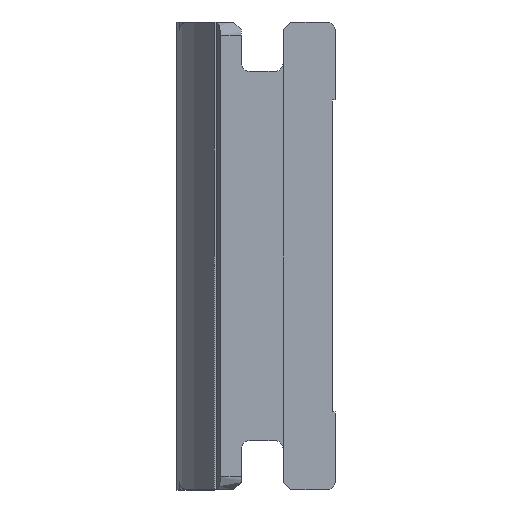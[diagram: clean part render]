
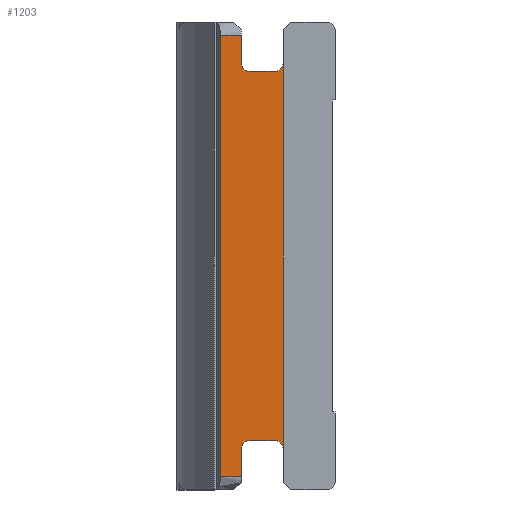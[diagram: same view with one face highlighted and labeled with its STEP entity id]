
A CAD part, left-side view. The second image highlights one B-rep face of the part: STEP entity #1203.
In plain terms, the highlighted planar face has unit normal (-1, 0, 0).
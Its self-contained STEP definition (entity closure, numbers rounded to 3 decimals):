
#17 = CARTESIAN_POINT ( 'NONE',  ( 10., 4.3, 8.5 ) ) ;
#33 = CARTESIAN_POINT ( 'NONE',  ( 10., 3.5, 8.7 ) ) ;
#43 = LINE ( 'NONE', #1056, #335 ) ;
#58 = ORIENTED_EDGE ( 'NONE', *, *, #443, .F. ) ;
#85 = DIRECTION ( 'NONE',  ( -1., 0., 0. ) ) ;
#97 = ORIENTED_EDGE ( 'NONE', *, *, #1587, .F. ) ;
#102 = LINE ( 'NONE', #1239, #485 ) ;
#115 = EDGE_CURVE ( 'NONE', #1319, #1458, #102, .T. ) ;
#140 = DIRECTION ( 'NONE',  ( 0., 1., 0. ) ) ;
#151 = LINE ( 'NONE', #33, #416 ) ;
#154 = CARTESIAN_POINT ( 'NONE',  ( 10., 1.9, 8.5 ) ) ;
#174 = AXIS2_PLACEMENT_3D ( 'NONE', #232, #85, #1057 ) ;
#205 = PLANE ( 'NONE',  #1856 ) ;
#206 = VECTOR ( 'NONE', #731, 1000. ) ;
#232 = CARTESIAN_POINT ( 'NONE',  ( 10., 2.2, -7.4 ) ) ;
#238 = LINE ( 'NONE', #812, #1126 ) ;
#262 = AXIS2_PLACEMENT_3D ( 'NONE', #1195, #1625, #338 ) ;
#266 = CARTESIAN_POINT ( 'NONE',  ( 10., 3.5, -7.4 ) ) ;
#311 = CARTESIAN_POINT ( 'NONE',  ( 10., 1.9, -7.4 ) ) ;
#335 = VECTOR ( 'NONE', #1186, 1000. ) ;
#338 = DIRECTION ( 'NONE',  ( 0., 0., -1. ) ) ;
#352 = ORIENTED_EDGE ( 'NONE', *, *, #883, .F. ) ;
#371 = VERTEX_POINT ( 'NONE', #311 ) ;
#390 = VERTEX_POINT ( 'NONE', #610 ) ;
#396 = EDGE_CURVE ( 'NONE', #390, #1568, #151, .T. ) ;
#409 = CARTESIAN_POINT ( 'NONE',  ( 10., 2.2, -7.1 ) ) ;
#416 = VECTOR ( 'NONE', #1177, 1000. ) ;
#443 = EDGE_CURVE ( 'NONE', #1407, #982, #1437, .T. ) ;
#485 = VECTOR ( 'NONE', #1367, 1000. ) ;
#498 = DIRECTION ( 'NONE',  ( 1., 0., 0. ) ) ;
#556 = CARTESIAN_POINT ( 'NONE',  ( 10., 3.2, -7.1 ) ) ;
#571 = CARTESIAN_POINT ( 'NONE',  ( 10., 1.9, -8.5 ) ) ;
#576 = CARTESIAN_POINT ( 'NONE',  ( 10., 3.5, -8.7 ) ) ;
#610 = CARTESIAN_POINT ( 'NONE',  ( 10., 3.5, 8.5 ) ) ;
#616 = CARTESIAN_POINT ( 'NONE',  ( 10., 3.2, 7.1 ) ) ;
#619 = CARTESIAN_POINT ( 'NONE',  ( 10., 3.2, -7.1 ) ) ;
#639 = ORIENTED_EDGE ( 'NONE', *, *, #1701, .F. ) ;
#651 = VECTOR ( 'NONE', #1717, 1000. ) ;
#652 = CIRCLE ( 'NONE', #262, 0.3 ) ;
#654 = AXIS2_PLACEMENT_3D ( 'NONE', #877, #739, #1308 ) ;
#660 = CARTESIAN_POINT ( 'NONE',  ( 10., 4.3, -8.5 ) ) ;
#717 = CARTESIAN_POINT ( 'NONE',  ( 10., 1.9, 7.4 ) ) ;
#731 = DIRECTION ( 'NONE',  ( 0., 1., 0. ) ) ;
#739 = DIRECTION ( 'NONE',  ( -1., 0., 0. ) ) ;
#746 = AXIS2_PLACEMENT_3D ( 'NONE', #985, #827, #1812 ) ;
#748 = ORIENTED_EDGE ( 'NONE', *, *, #1031, .F. ) ;
#763 = EDGE_CURVE ( 'NONE', #1578, #1407, #43, .T. ) ;
#785 = VERTEX_POINT ( 'NONE', #619 ) ;
#812 = CARTESIAN_POINT ( 'NONE',  ( 10., 1.9, -29.536 ) ) ;
#827 = DIRECTION ( 'NONE',  ( -1., 0., 0. ) ) ;
#831 = CIRCLE ( 'NONE', #746, 0.3 ) ;
#849 = LINE ( 'NONE', #576, #1586 ) ;
#860 = VECTOR ( 'NONE', #140, 1000. ) ;
#870 = EDGE_LOOP ( 'NONE', ( #1162, #1611, #1515, #1635, #639, #97, #748, #1637, #352, #58, #1855, #1302 ) ) ;
#877 = CARTESIAN_POINT ( 'NONE',  ( 10., 2.2, 7.4 ) ) ;
#883 = EDGE_CURVE ( 'NONE', #982, #371, #238, .T. ) ;
#969 = DIRECTION ( 'NONE',  ( 0., 0., -1. ) ) ;
#982 = VERTEX_POINT ( 'NONE', #717 ) ;
#985 = CARTESIAN_POINT ( 'NONE',  ( 10., 3.2, 7.4 ) ) ;
#992 = LINE ( 'NONE', #556, #860 ) ;
#997 = VERTEX_POINT ( 'NONE', #266 ) ;
#1020 = EDGE_CURVE ( 'NONE', #1319, #1065, #1274, .T. ) ;
#1031 = EDGE_CURVE ( 'NONE', #1349, #785, #992, .T. ) ;
#1056 = CARTESIAN_POINT ( 'NONE',  ( 10., 3.2, 7.1 ) ) ;
#1057 = DIRECTION ( 'NONE',  ( 0., 0., -1. ) ) ;
#1065 = VERTEX_POINT ( 'NONE', #1299 ) ;
#1106 = DIRECTION ( 'NONE',  ( 0., 0., -1. ) ) ;
#1108 = CARTESIAN_POINT ( 'NONE',  ( 10., 2.2, 7.1 ) ) ;
#1126 = VECTOR ( 'NONE', #1106, 1000. ) ;
#1162 = ORIENTED_EDGE ( 'NONE', *, *, #396, .F. ) ;
#1171 = EDGE_CURVE ( 'NONE', #390, #1458, #1444, .T. ) ;
#1177 = DIRECTION ( 'NONE',  ( 0., 0., -1. ) ) ;
#1186 = DIRECTION ( 'NONE',  ( 0., -1., 0. ) ) ;
#1195 = CARTESIAN_POINT ( 'NONE',  ( 10., 3.2, -7.4 ) ) ;
#1199 = FACE_OUTER_BOUND ( 'NONE', #870, .T. ) ;
#1203 = ADVANCED_FACE ( 'NONE', ( #1199 ), #205, .F. ) ;
#1239 = CARTESIAN_POINT ( 'NONE',  ( 10., 4.3, -29.536 ) ) ;
#1274 = LINE ( 'NONE', #571, #651 ) ;
#1299 = CARTESIAN_POINT ( 'NONE',  ( 10., 3.5, -8.5 ) ) ;
#1302 = ORIENTED_EDGE ( 'NONE', *, *, #1422, .F. ) ;
#1308 = DIRECTION ( 'NONE',  ( 0., 0., -1. ) ) ;
#1311 = EDGE_CURVE ( 'NONE', #371, #1349, #1346, .T. ) ;
#1319 = VERTEX_POINT ( 'NONE', #660 ) ;
#1346 = CIRCLE ( 'NONE', #174, 0.3 ) ;
#1349 = VERTEX_POINT ( 'NONE', #409 ) ;
#1353 = CARTESIAN_POINT ( 'NONE',  ( 10., 1.9, -29.536 ) ) ;
#1367 = DIRECTION ( 'NONE',  ( 0., 0., 1. ) ) ;
#1407 = VERTEX_POINT ( 'NONE', #1108 ) ;
#1422 = EDGE_CURVE ( 'NONE', #1568, #1578, #831, .T. ) ;
#1437 = CIRCLE ( 'NONE', #654, 0.3 ) ;
#1444 = LINE ( 'NONE', #154, #206 ) ;
#1458 = VERTEX_POINT ( 'NONE', #17 ) ;
#1515 = ORIENTED_EDGE ( 'NONE', *, *, #115, .F. ) ;
#1568 = VERTEX_POINT ( 'NONE', #1822 ) ;
#1578 = VERTEX_POINT ( 'NONE', #616 ) ;
#1586 = VECTOR ( 'NONE', #969, 1000. ) ;
#1587 = EDGE_CURVE ( 'NONE', #785, #997, #652, .T. ) ;
#1611 = ORIENTED_EDGE ( 'NONE', *, *, #1171, .T. ) ;
#1625 = DIRECTION ( 'NONE',  ( -1., 0., 0. ) ) ;
#1635 = ORIENTED_EDGE ( 'NONE', *, *, #1020, .T. ) ;
#1637 = ORIENTED_EDGE ( 'NONE', *, *, #1311, .F. ) ;
#1701 = EDGE_CURVE ( 'NONE', #997, #1065, #849, .T. ) ;
#1717 = DIRECTION ( 'NONE',  ( 0., -1., 0. ) ) ;
#1787 = DIRECTION ( 'NONE',  ( 0., 0., -1. ) ) ;
#1812 = DIRECTION ( 'NONE',  ( 0., 0., -1. ) ) ;
#1822 = CARTESIAN_POINT ( 'NONE',  ( 10., 3.5, 7.4 ) ) ;
#1855 = ORIENTED_EDGE ( 'NONE', *, *, #763, .F. ) ;
#1856 = AXIS2_PLACEMENT_3D ( 'NONE', #1353, #498, #1787 ) ;
